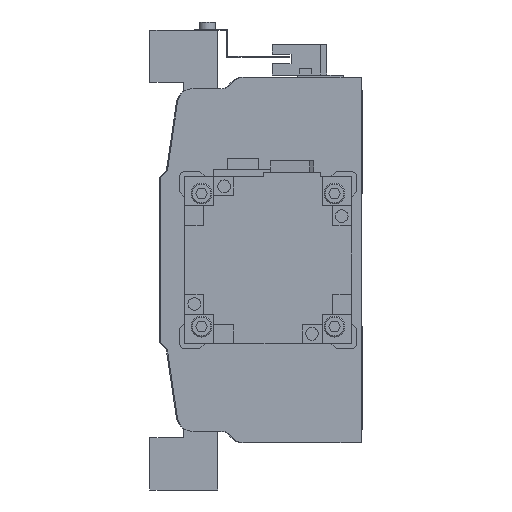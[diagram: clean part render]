
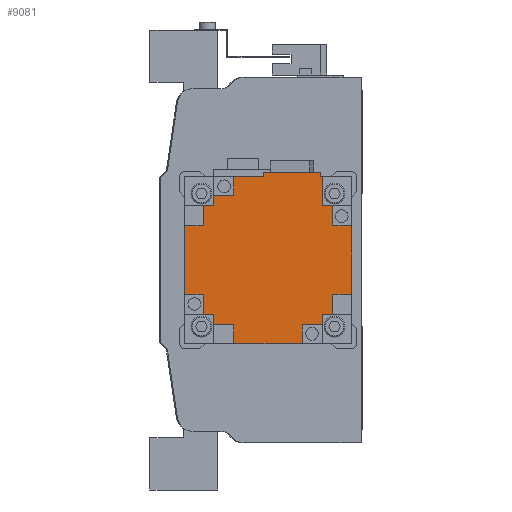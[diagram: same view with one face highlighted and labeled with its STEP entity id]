
A CAD part, left-side view. The second image highlights one B-rep face of the part: STEP entity #9081.
In plain terms, the highlighted planar face has unit normal (-1, 0, 0) as drawn and (0, 1, 0) by its records, which use the part's own axes.
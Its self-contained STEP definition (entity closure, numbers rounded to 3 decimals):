
#140=PLANE('',#9734);
#646=LINE('',#13418,#1697);
#655=LINE('',#13438,#1706);
#661=LINE('',#13450,#1712);
#664=LINE('',#13456,#1715);
#665=LINE('',#13459,#1716);
#666=LINE('',#13461,#1717);
#667=LINE('',#13463,#1718);
#668=LINE('',#13465,#1719);
#669=LINE('',#13467,#1720);
#670=LINE('',#13469,#1721);
#671=LINE('',#13471,#1722);
#672=LINE('',#13473,#1723);
#673=LINE('',#13475,#1724);
#674=LINE('',#13477,#1725);
#675=LINE('',#13479,#1726);
#676=LINE('',#13481,#1727);
#677=LINE('',#13483,#1728);
#678=LINE('',#13485,#1729);
#679=LINE('',#13487,#1730);
#680=LINE('',#13489,#1731);
#681=LINE('',#13491,#1732);
#682=LINE('',#13493,#1733);
#683=LINE('',#13495,#1734);
#684=LINE('',#13497,#1735);
#685=LINE('',#13498,#1736);
#686=LINE('',#13499,#1737);
#687=LINE('',#13500,#1738);
#688=LINE('',#13502,#1739);
#689=LINE('',#13504,#1740);
#690=LINE('',#13506,#1741);
#1697=VECTOR('',#10813,1000.);
#1706=VECTOR('',#10824,1000.);
#1712=VECTOR('',#10830,1000.);
#1715=VECTOR('',#10835,1000.);
#1716=VECTOR('',#10836,1000.);
#1717=VECTOR('',#10837,1000.);
#1718=VECTOR('',#10838,1000.);
#1719=VECTOR('',#10839,1000.);
#1720=VECTOR('',#10840,1000.);
#1721=VECTOR('',#10841,1000.);
#1722=VECTOR('',#10842,1000.);
#1723=VECTOR('',#10843,1000.);
#1724=VECTOR('',#10844,1000.);
#1725=VECTOR('',#10845,1000.);
#1726=VECTOR('',#10846,1000.);
#1727=VECTOR('',#10847,1000.);
#1728=VECTOR('',#10848,1000.);
#1729=VECTOR('',#10849,1000.);
#1730=VECTOR('',#10850,1000.);
#1731=VECTOR('',#10851,1000.);
#1732=VECTOR('',#10852,1000.);
#1733=VECTOR('',#10853,1000.);
#1734=VECTOR('',#10854,1000.);
#1735=VECTOR('',#10855,1000.);
#1736=VECTOR('',#10856,1000.);
#1737=VECTOR('',#10857,1000.);
#1738=VECTOR('',#10858,1000.);
#1739=VECTOR('',#10859,1000.);
#1740=VECTOR('',#10860,1000.);
#1741=VECTOR('',#10861,1000.);
#3035=ORIENTED_EDGE('',*,*,#5418,.T.);
#3036=ORIENTED_EDGE('',*,*,#5419,.T.);
#3037=ORIENTED_EDGE('',*,*,#5420,.T.);
#3038=ORIENTED_EDGE('',*,*,#5421,.T.);
#3039=ORIENTED_EDGE('',*,*,#5422,.T.);
#3040=ORIENTED_EDGE('',*,*,#5423,.F.);
#3041=ORIENTED_EDGE('',*,*,#5424,.F.);
#3042=ORIENTED_EDGE('',*,*,#5425,.T.);
#3043=ORIENTED_EDGE('',*,*,#5426,.T.);
#3044=ORIENTED_EDGE('',*,*,#5427,.T.);
#3045=ORIENTED_EDGE('',*,*,#5428,.T.);
#3046=ORIENTED_EDGE('',*,*,#5429,.T.);
#3047=ORIENTED_EDGE('',*,*,#5430,.F.);
#3048=ORIENTED_EDGE('',*,*,#5431,.F.);
#3049=ORIENTED_EDGE('',*,*,#5432,.T.);
#3050=ORIENTED_EDGE('',*,*,#5433,.T.);
#3051=ORIENTED_EDGE('',*,*,#5434,.T.);
#3052=ORIENTED_EDGE('',*,*,#5435,.T.);
#3053=ORIENTED_EDGE('',*,*,#5436,.T.);
#3054=ORIENTED_EDGE('',*,*,#5437,.F.);
#3055=ORIENTED_EDGE('',*,*,#5438,.F.);
#3056=ORIENTED_EDGE('',*,*,#5409,.T.);
#3057=ORIENTED_EDGE('',*,*,#5439,.F.);
#3058=ORIENTED_EDGE('',*,*,#5400,.F.);
#3059=ORIENTED_EDGE('',*,*,#5440,.T.);
#3060=ORIENTED_EDGE('',*,*,#5415,.T.);
#3061=ORIENTED_EDGE('',*,*,#5441,.T.);
#3062=ORIENTED_EDGE('',*,*,#5442,.T.);
#3063=ORIENTED_EDGE('',*,*,#5443,.F.);
#3064=ORIENTED_EDGE('',*,*,#5444,.F.);
#5400=EDGE_CURVE('',#6632,#6633,#646,.T.);
#5409=EDGE_CURVE('',#6642,#6640,#655,.T.);
#5415=EDGE_CURVE('',#6648,#6647,#661,.T.);
#5418=EDGE_CURVE('',#6650,#6651,#664,.T.);
#5419=EDGE_CURVE('',#6651,#6652,#665,.T.);
#5420=EDGE_CURVE('',#6652,#6653,#666,.T.);
#5421=EDGE_CURVE('',#6653,#6654,#667,.T.);
#5422=EDGE_CURVE('',#6654,#6655,#668,.T.);
#5423=EDGE_CURVE('',#6656,#6655,#669,.T.);
#5424=EDGE_CURVE('',#6657,#6656,#670,.T.);
#5425=EDGE_CURVE('',#6657,#6658,#671,.T.);
#5426=EDGE_CURVE('',#6658,#6659,#672,.T.);
#5427=EDGE_CURVE('',#6659,#6660,#673,.T.);
#5428=EDGE_CURVE('',#6660,#6661,#674,.T.);
#5429=EDGE_CURVE('',#6661,#6662,#675,.T.);
#5430=EDGE_CURVE('',#6663,#6662,#676,.T.);
#5431=EDGE_CURVE('',#6664,#6663,#677,.T.);
#5432=EDGE_CURVE('',#6664,#6665,#678,.T.);
#5433=EDGE_CURVE('',#6665,#6666,#679,.T.);
#5434=EDGE_CURVE('',#6666,#6667,#680,.T.);
#5435=EDGE_CURVE('',#6667,#6668,#681,.T.);
#5436=EDGE_CURVE('',#6668,#6669,#682,.T.);
#5437=EDGE_CURVE('',#6670,#6669,#683,.T.);
#5438=EDGE_CURVE('',#6642,#6670,#684,.T.);
#5439=EDGE_CURVE('',#6633,#6640,#685,.T.);
#5440=EDGE_CURVE('',#6632,#6648,#686,.T.);
#5441=EDGE_CURVE('',#6647,#6671,#687,.T.);
#5442=EDGE_CURVE('',#6671,#6672,#688,.T.);
#5443=EDGE_CURVE('',#6673,#6672,#689,.T.);
#5444=EDGE_CURVE('',#6650,#6673,#690,.T.);
#6632=VERTEX_POINT('',#13419);
#6633=VERTEX_POINT('',#13420);
#6640=VERTEX_POINT('',#13436);
#6642=VERTEX_POINT('',#13439);
#6647=VERTEX_POINT('',#13449);
#6648=VERTEX_POINT('',#13451);
#6650=VERTEX_POINT('',#13457);
#6651=VERTEX_POINT('',#13458);
#6652=VERTEX_POINT('',#13460);
#6653=VERTEX_POINT('',#13462);
#6654=VERTEX_POINT('',#13464);
#6655=VERTEX_POINT('',#13466);
#6656=VERTEX_POINT('',#13468);
#6657=VERTEX_POINT('',#13470);
#6658=VERTEX_POINT('',#13472);
#6659=VERTEX_POINT('',#13474);
#6660=VERTEX_POINT('',#13476);
#6661=VERTEX_POINT('',#13478);
#6662=VERTEX_POINT('',#13480);
#6663=VERTEX_POINT('',#13482);
#6664=VERTEX_POINT('',#13484);
#6665=VERTEX_POINT('',#13486);
#6666=VERTEX_POINT('',#13488);
#6667=VERTEX_POINT('',#13490);
#6668=VERTEX_POINT('',#13492);
#6669=VERTEX_POINT('',#13494);
#6670=VERTEX_POINT('',#13496);
#6671=VERTEX_POINT('',#13501);
#6672=VERTEX_POINT('',#13503);
#6673=VERTEX_POINT('',#13505);
#7709=EDGE_LOOP('',(#3035,#3036,#3037,#3038,#3039,#3040,#3041,#3042,#3043,
#3044,#3045,#3046,#3047,#3048,#3049,#3050,#3051,#3052,#3053,#3054,#3055,
#3056,#3057,#3058,#3059,#3060,#3061,#3062,#3063,#3064));
#8350=FACE_BOUND('',#7709,.T.);
#9081=ADVANCED_FACE('',(#8350),#140,.T.);
#9734=AXIS2_PLACEMENT_3D('',#13455,#10833,#10834);
#10813=DIRECTION('',(0.,0.,1.));
#10824=DIRECTION('',(0.,0.,-1.));
#10830=DIRECTION('',(0.,0.,-1.));
#10833=DIRECTION('',(0.,1.,0.));
#10834=DIRECTION('',(0.,0.,1.));
#10835=DIRECTION('',(-1.,0.,0.));
#10836=DIRECTION('',(0.,0.,-1.));
#10837=DIRECTION('',(-1.,0.,0.));
#10838=DIRECTION('',(0.,0.,1.));
#10839=DIRECTION('',(-1.,0.,0.));
#10840=DIRECTION('',(0.,0.,-1.));
#10841=DIRECTION('',(1.,0.,0.));
#10842=DIRECTION('',(0.,0.,1.));
#10843=DIRECTION('',(-1.,0.,0.));
#10844=DIRECTION('',(0.,0.,1.));
#10845=DIRECTION('',(1.,0.,0.));
#10846=DIRECTION('',(0.,0.,1.));
#10847=DIRECTION('',(-1.,0.,0.));
#10848=DIRECTION('',(0.,0.,-1.));
#10849=DIRECTION('',(1.,0.,0.));
#10850=DIRECTION('',(0.,0.,1.));
#10851=DIRECTION('',(1.,0.,0.));
#10852=DIRECTION('',(0.,0.,-1.));
#10853=DIRECTION('',(1.,0.,0.));
#10854=DIRECTION('',(0.,0.,1.));
#10855=DIRECTION('',(-1.,0.,0.));
#10856=DIRECTION('',(-1.,0.,0.));
#10857=DIRECTION('',(-1.,0.,0.));
#10858=DIRECTION('',(-1.,0.,0.));
#10859=DIRECTION('',(0.,0.,-1.));
#10860=DIRECTION('',(1.,0.,0.));
#10861=DIRECTION('',(0.,0.,1.));
#13418=CARTESIAN_POINT('',(42.,138.3,-2.2));
#13419=CARTESIAN_POINT('',(42.,138.3,-2.2));
#13420=CARTESIAN_POINT('',(42.,138.3,25.2));
#13436=CARTESIAN_POINT('',(39.95,138.3,25.2));
#13438=CARTESIAN_POINT('',(39.95,138.3,39.95));
#13439=CARTESIAN_POINT('',(39.95,138.3,25.95));
#13449=CARTESIAN_POINT('',(39.95,138.3,-16.35));
#13450=CARTESIAN_POINT('',(39.95,138.3,39.95));
#13451=CARTESIAN_POINT('',(39.95,138.3,-2.2));
#13455=CARTESIAN_POINT('',(0.,138.3,0.));
#13456=CARTESIAN_POINT('',(0.,138.3,-30.95));
#13457=CARTESIAN_POINT('',(25.95,138.3,-30.95));
#13458=CARTESIAN_POINT('',(16.35,138.3,-30.95));
#13459=CARTESIAN_POINT('',(16.35,138.3,0.));
#13460=CARTESIAN_POINT('',(16.35,138.3,-39.95));
#13461=CARTESIAN_POINT('',(39.95,138.3,-39.95));
#13462=CARTESIAN_POINT('',(-16.35,138.3,-39.95));
#13463=CARTESIAN_POINT('',(-16.35,138.3,0.));
#13464=CARTESIAN_POINT('',(-16.35,138.3,-30.95));
#13465=CARTESIAN_POINT('',(0.,138.3,-30.95));
#13466=CARTESIAN_POINT('',(-25.95,138.3,-30.95));
#13467=CARTESIAN_POINT('',(-25.95,138.3,0.));
#13468=CARTESIAN_POINT('',(-25.95,138.3,-25.95));
#13469=CARTESIAN_POINT('',(0.,138.3,-25.95));
#13470=CARTESIAN_POINT('',(-30.95,138.3,-25.95));
#13471=CARTESIAN_POINT('',(-30.95,138.3,0.));
#13472=CARTESIAN_POINT('',(-30.95,138.3,-16.35));
#13473=CARTESIAN_POINT('',(0.,138.3,-16.35));
#13474=CARTESIAN_POINT('',(-39.95,138.3,-16.35));
#13475=CARTESIAN_POINT('',(-39.95,138.3,-39.95));
#13476=CARTESIAN_POINT('',(-39.95,138.3,16.35));
#13477=CARTESIAN_POINT('',(0.,138.3,16.35));
#13478=CARTESIAN_POINT('',(-30.95,138.3,16.35));
#13479=CARTESIAN_POINT('',(-30.95,138.3,0.));
#13480=CARTESIAN_POINT('',(-30.95,138.3,25.95));
#13481=CARTESIAN_POINT('',(0.,138.3,25.95));
#13482=CARTESIAN_POINT('',(-25.95,138.3,25.95));
#13483=CARTESIAN_POINT('',(-25.95,138.3,0.));
#13484=CARTESIAN_POINT('',(-25.95,138.3,30.95));
#13485=CARTESIAN_POINT('',(0.,138.3,30.95));
#13486=CARTESIAN_POINT('',(-16.35,138.3,30.95));
#13487=CARTESIAN_POINT('',(-16.35,138.3,0.));
#13488=CARTESIAN_POINT('',(-16.35,138.3,39.95));
#13489=CARTESIAN_POINT('',(-39.95,138.3,39.95));
#13490=CARTESIAN_POINT('',(16.35,138.3,39.95));
#13491=CARTESIAN_POINT('',(16.35,138.3,0.));
#13492=CARTESIAN_POINT('',(16.35,138.3,30.95));
#13493=CARTESIAN_POINT('',(0.,138.3,30.95));
#13494=CARTESIAN_POINT('',(25.95,138.3,30.95));
#13495=CARTESIAN_POINT('',(25.95,138.3,0.));
#13496=CARTESIAN_POINT('',(25.95,138.3,25.95));
#13497=CARTESIAN_POINT('',(0.,138.3,25.95));
#13498=CARTESIAN_POINT('',(42.,138.3,25.2));
#13499=CARTESIAN_POINT('',(42.,138.3,-2.2));
#13500=CARTESIAN_POINT('',(0.,138.3,-16.35));
#13501=CARTESIAN_POINT('',(30.95,138.3,-16.35));
#13502=CARTESIAN_POINT('',(30.95,138.3,0.));
#13503=CARTESIAN_POINT('',(30.95,138.3,-25.95));
#13504=CARTESIAN_POINT('',(0.,138.3,-25.95));
#13505=CARTESIAN_POINT('',(25.95,138.3,-25.95));
#13506=CARTESIAN_POINT('',(25.95,138.3,0.));
